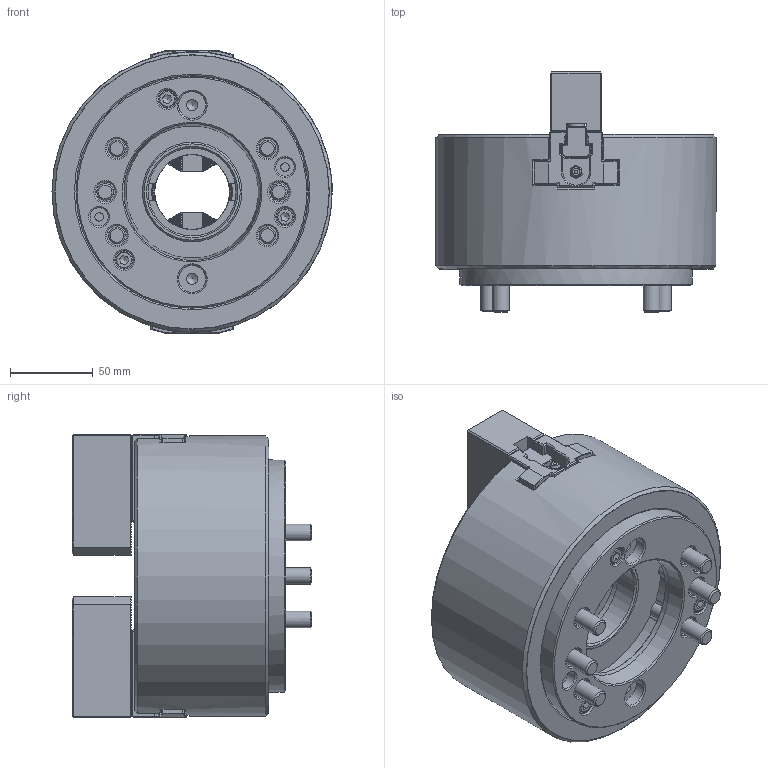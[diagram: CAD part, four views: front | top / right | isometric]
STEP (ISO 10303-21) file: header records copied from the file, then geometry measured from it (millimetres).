
FILE_DESCRIPTION(/* description */ (''),/* implementation_level */ '2;1');
FILE_NAME(/* name */ '\\Itserver\個人資料夾\柯玫如\8.網頁3D討論\1.中空油壓系列\1-1中空油壓夾頭\2.OPT系列\OPT-206\OPT-206-A5.stp',/* time_stamp */ '2024-08-22T08:13:42+08:00',/* author */ ('034'),/* organization */ (''),/* preprocessor_version */ 'ST-DEVELOPER v16.13',/* originating_system */ 'Autodesk Inventor 2018',/* authorisation */ '');
FILE_SCHEMA (('AUTOMOTIVE_DESIGN { 1 0 10303 214 3 1 1 }'));
Products named in the file (1): OPT-206-A5
Bounding box: 168.86 x 144.49 x 171.11 mm (x, y, z)
Volume: 1788552.4 mm3; surface area: 211601.7 mm2
Topology: 1 solids, 29 shells, 3701 faces, 11425 edges, 7360 vertices
Faces by surface type: plane 2303, cylinder 805, bspline 356, cone 169, torus 58, sphere 10
Full cylindrical faces by diameter (mm): 4.3 x4, 5 x4, 5.1 x2, 5.2 x2, 5.5 x4, 6 x5, 6.6 x3, 8.6 x10, 9.5 x4, 10 x23, 11 x9, 12 x12, 16 x10, 16.3 x2, 17 x10, 45 x1, 48 x1, 48.2 x1, 48.664 x2, 53 x1, 55.5 x1, 60 x1, 79.8 x1, 140 x2, 141 x1, 169 x1
Entity records: 126444 total; most frequent: CARTESIAN_POINT 27349, ORIENTED_EDGE 22026, DIRECTION 18737, EDGE_CURVE 11013, LINE 8055, VECTOR 8055, VERTEX_POINT 7235, AXIS2_PLACEMENT_3D 5341
